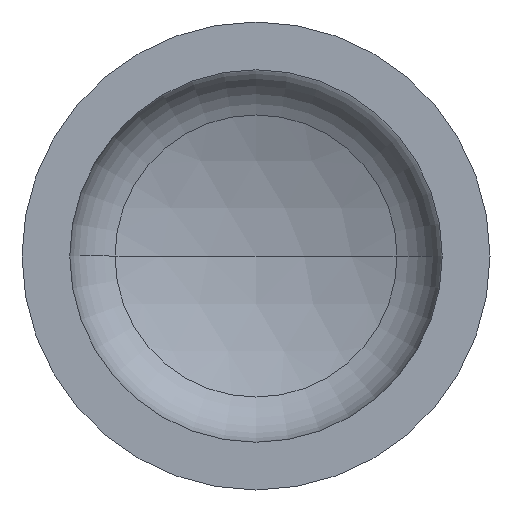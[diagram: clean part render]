
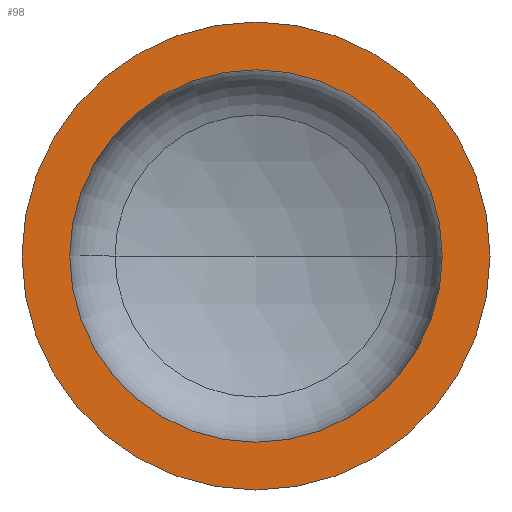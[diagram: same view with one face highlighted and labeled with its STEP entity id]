
A CAD part, front view. The second image highlights one B-rep face of the part: STEP entity #98.
In plain terms, the highlighted planar face has unit normal (0, -1, 0).
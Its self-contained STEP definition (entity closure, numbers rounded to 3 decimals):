
#2 = AXIS2_PLACEMENT_3D ( 'NONE', #268, #95, #274 ) ;
#6 = AXIS2_PLACEMENT_3D ( 'NONE', #24, #44, #182 ) ;
#22 = AXIS2_PLACEMENT_3D ( 'NONE', #174, #234, #232 ) ;
#24 = CARTESIAN_POINT ( 'NONE',  ( 0., 0., 0. ) ) ;
#44 = DIRECTION ( 'NONE',  ( 0., -1., 0. ) ) ;
#46 = AXIS2_PLACEMENT_3D ( 'NONE', #169, #170, #333 ) ;
#53 = AXIS2_PLACEMENT_3D ( 'NONE', #200, #197, #320 ) ;
#58 = EDGE_CURVE ( 'NONE', #88, #69, #411, .T. ) ;
#62 = EDGE_CURVE ( 'NONE', #321, #327, #118, .T. ) ;
#69 = VERTEX_POINT ( 'NONE', #236 ) ;
#80 = CARTESIAN_POINT ( 'NONE',  ( -500., 0., 0. ) ) ;
#88 = VERTEX_POINT ( 'NONE', #203 ) ;
#95 = DIRECTION ( 'NONE',  ( 0., -1., 0. ) ) ;
#98 = ADVANCED_FACE ( 'NONE', ( #390, #249 ), #143, .F. ) ;
#107 = CARTESIAN_POINT ( 'NONE',  ( 500., 0., 0. ) ) ;
#118 = CIRCLE ( 'NONE', #46, 500. ) ;
#125 = ORIENTED_EDGE ( 'NONE', *, *, #58, .F. ) ;
#133 = CIRCLE ( 'NONE', #6, 500. ) ;
#143 = PLANE ( 'NONE',  #22 ) ;
#169 = CARTESIAN_POINT ( 'NONE',  ( 0., 0., 0. ) ) ;
#170 = DIRECTION ( 'NONE',  ( 0., -1., 0. ) ) ;
#174 = CARTESIAN_POINT ( 'NONE',  ( -500., 0., 0. ) ) ;
#182 = DIRECTION ( 'NONE',  ( 1., 0., 0. ) ) ;
#197 = DIRECTION ( 'NONE',  ( 0., -1., 0. ) ) ;
#200 = CARTESIAN_POINT ( 'NONE',  ( 0., 0., 0. ) ) ;
#203 = CARTESIAN_POINT ( 'NONE',  ( 398., 0., 0. ) ) ;
#232 = DIRECTION ( 'NONE',  ( -1., 0., 0. ) ) ;
#234 = DIRECTION ( 'NONE',  ( 0., 1., 0. ) ) ;
#236 = CARTESIAN_POINT ( 'NONE',  ( -398., 0., 0. ) ) ;
#249 = FACE_OUTER_BOUND ( 'NONE', #305, .T. ) ;
#262 = EDGE_LOOP ( 'NONE', ( #125, #386 ) ) ;
#268 = CARTESIAN_POINT ( 'NONE',  ( 0., 0., 0. ) ) ;
#274 = DIRECTION ( 'NONE',  ( 1., 0., 0. ) ) ;
#275 = EDGE_CURVE ( 'NONE', #327, #321, #133, .T. ) ;
#282 = ORIENTED_EDGE ( 'NONE', *, *, #275, .T. ) ;
#305 = EDGE_LOOP ( 'NONE', ( #282, #310 ) ) ;
#310 = ORIENTED_EDGE ( 'NONE', *, *, #62, .T. ) ;
#314 = EDGE_CURVE ( 'NONE', #69, #88, #355, .T. ) ;
#320 = DIRECTION ( 'NONE',  ( 1., 0., 0. ) ) ;
#321 = VERTEX_POINT ( 'NONE', #80 ) ;
#327 = VERTEX_POINT ( 'NONE', #107 ) ;
#333 = DIRECTION ( 'NONE',  ( 1., 0., 0. ) ) ;
#355 = CIRCLE ( 'NONE', #2, 398. ) ;
#386 = ORIENTED_EDGE ( 'NONE', *, *, #314, .F. ) ;
#390 = FACE_BOUND ( 'NONE', #262, .T. ) ;
#411 = CIRCLE ( 'NONE', #53, 398. ) ;
